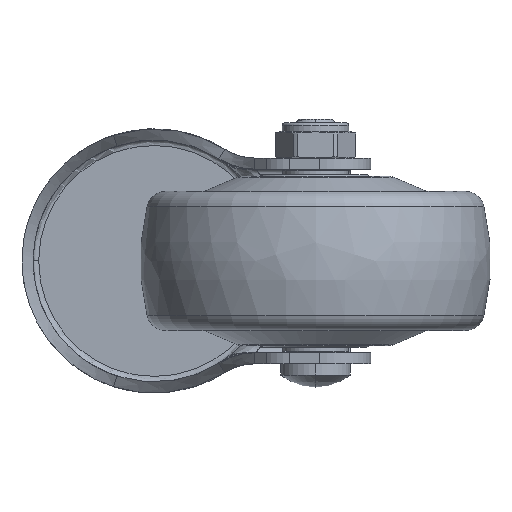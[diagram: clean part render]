
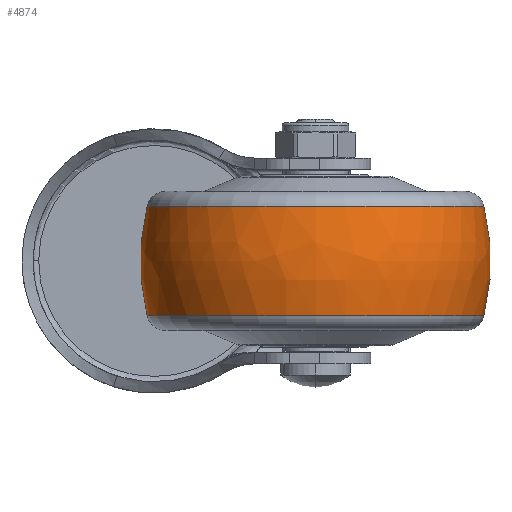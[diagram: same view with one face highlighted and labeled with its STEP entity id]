
A CAD part, front view. The second image highlights one B-rep face of the part: STEP entity #4874.
In plain terms, the highlighted free-form (B-spline) face has degree [3, 3] with [7, 4] control points.
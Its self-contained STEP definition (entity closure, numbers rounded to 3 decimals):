
#4360=CARTESIAN_POINT('',(0.,-8.5,0.));
#4361=DIRECTION('',(0.,0.,1.));
#4362=DIRECTION('',(0.247,0.969,0.));
#4363=AXIS2_PLACEMENT_3D('',#4360,#4361,#4362);
#4365=CARTESIAN_POINT('',(0.,8.5,0.));
#4366=DIRECTION('',(0.,0.,-1.));
#4367=DIRECTION('',(0.247,-0.969,0.));
#4368=AXIS2_PLACEMENT_3D('',#4365,#4366,#4367);
#4370=CARTESIAN_POINT('',(9.863,0.,0.));
#4371=DIRECTION('',(-1.,0.,0.));
#4372=DIRECTION('',(0.,1.,0.));
#4373=AXIS2_PLACEMENT_3D('',#4370,#4371,#4372);
#4395=CARTESIAN_POINT('',(-9.863,0.,0.));
#4396=DIRECTION('',(-1.,0.,0.));
#4397=DIRECTION('',(0.,1.,0.));
#4398=AXIS2_PLACEMENT_3D('',#4395,#4396,#4397);
#4525=CARTESIAN_POINT('',(9.863,30.265,0.));
#4527=VERTEX_POINT('',#4525);
#4528=CARTESIAN_POINT('',(-9.863,30.265,0.));
#4529=VERTEX_POINT('',#4528);
#4565=CARTESIAN_POINT('',(9.863,-30.265,0.));
#4567=VERTEX_POINT('',#4565);
#4568=CARTESIAN_POINT('',(-9.863,-30.265,0.));
#4569=VERTEX_POINT('',#4568);
#4836=CARTESIAN_POINT('',(-10.249,-30.105,
1.894));
#4837=CARTESIAN_POINT('',(-3.494,-31.892,
2.006));
#4838=CARTESIAN_POINT('',(3.494,-31.892,2.006));
#4839=CARTESIAN_POINT('',(10.249,-30.105,1.894));
#4840=CARTESIAN_POINT('',(-10.249,-31.271,
-16.633));
#4841=CARTESIAN_POINT('',(-3.494,-33.127,
-17.62));
#4842=CARTESIAN_POINT('',(3.494,-33.127,
-17.62));
#4843=CARTESIAN_POINT('',(10.249,-31.271,
-16.633));
#4844=CARTESIAN_POINT('',(-10.249,-18.563,
-30.165));
#4845=CARTESIAN_POINT('',(-3.494,-19.665,
-31.955));
#4846=CARTESIAN_POINT('',(3.494,-19.665,
-31.955));
#4847=CARTESIAN_POINT('',(10.249,-18.563,
-30.165));
#4848=CARTESIAN_POINT('',(-10.249,0.,-30.165));
#4849=CARTESIAN_POINT('',(-3.494,0.,-31.955));
#4850=CARTESIAN_POINT('',(3.494,0.,-31.955));
#4851=CARTESIAN_POINT('',(10.249,0.,-30.165));
#4852=CARTESIAN_POINT('',(-10.249,18.563,
-30.165));
#4853=CARTESIAN_POINT('',(-3.494,19.665,
-31.955));
#4854=CARTESIAN_POINT('',(3.494,19.665,-31.955));
#4855=CARTESIAN_POINT('',(10.249,18.563,-30.165));
#4856=CARTESIAN_POINT('',(-10.249,31.271,
-16.633));
#4857=CARTESIAN_POINT('',(-3.494,33.127,
-17.62));
#4858=CARTESIAN_POINT('',(3.494,33.127,-17.62));
#4859=CARTESIAN_POINT('',(10.249,31.271,-16.633));
#4860=CARTESIAN_POINT('',(-10.249,30.105,1.894));
#4861=CARTESIAN_POINT('',(-3.494,31.892,2.006));
#4862=CARTESIAN_POINT('',(3.494,31.892,2.006));
#4863=CARTESIAN_POINT('',(10.249,30.105,1.894));
#4864=(BOUNDED_SURFACE()B_SPLINE_SURFACE(3,3,((#4836,#4837,#4838,#4839),(#4840,
#4841,#4842,#4843),(#4844,#4845,#4846,#4847),(#4848,#4849,#4850,#4851),(#4852,
#4853,#4854,#4855),(#4856,#4857,#4858,#4859),(#4860,#4861,#4862,#4863)),
.UNSPECIFIED.,.F.,.F.,.F.)B_SPLINE_SURFACE_WITH_KNOTS((4,3,4),(4,4),(0.,1.,
2.),(0.,1.),.UNSPECIFIED.)GEOMETRIC_REPRESENTATION_ITEM()RATIONAL_B_SPLINE_SURFACE(((1.207,1.181,1.181,1.207),(
0.953,0.932,0.932,0.953),(
0.953,0.932,0.932,0.953),(
1.207,1.181,1.181,1.207),(
0.953,0.932,0.932,0.953),(
0.953,0.932,0.932,0.953),(
1.207,1.181,1.181,1.207)))REPRESENTATION_ITEM('')SURFACE());
#4866=ORIENTED_EDGE('',*,*,#4865,.T.);
#4868=ORIENTED_EDGE('',*,*,#4867,.T.);
#4870=ORIENTED_EDGE('',*,*,#4869,.F.);
#4871=ORIENTED_EDGE('',*,*,#4829,.F.);
#4872=EDGE_LOOP('',(#4866,#4868,#4870,#4871));
#4873=FACE_OUTER_BOUND('',#4872,.F.);
#4364=CIRCLE('',#4363,40.);
#4369=CIRCLE('',#4368,40.);
#4374=CIRCLE('',#4373,30.265);
#4399=CIRCLE('',#4398,30.265);
#4829=EDGE_CURVE('',#4527,#4567,#4374,.T.);
#4865=EDGE_CURVE('',#4527,#4529,#4364,.T.);
#4867=EDGE_CURVE('',#4529,#4569,#4399,.T.);
#4869=EDGE_CURVE('',#4567,#4569,#4369,.T.);
#4874=ADVANCED_FACE('',(#4873),#4864,.T.);
